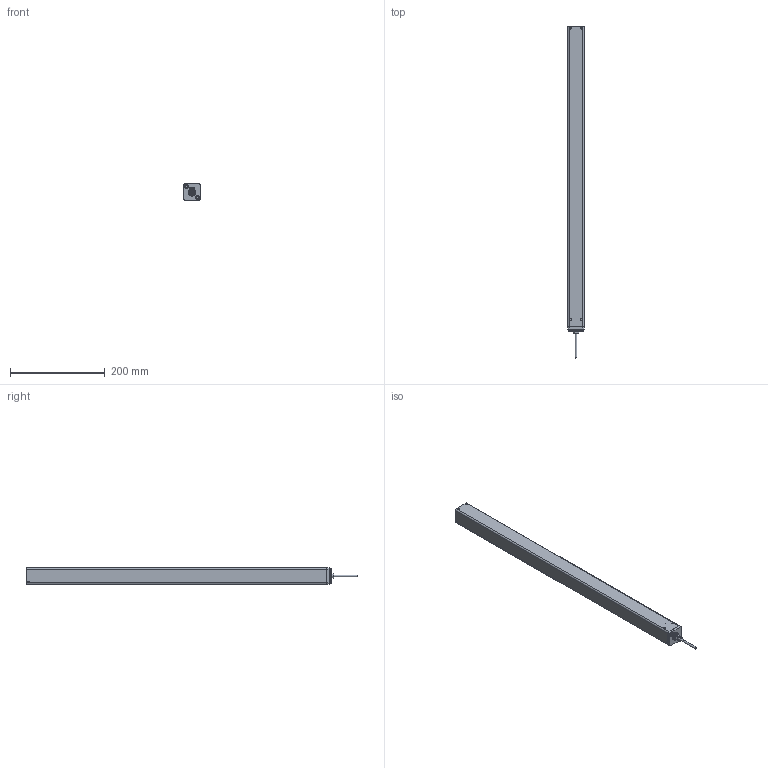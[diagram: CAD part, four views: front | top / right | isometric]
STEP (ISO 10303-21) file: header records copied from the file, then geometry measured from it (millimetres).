
FILE_DESCRIPTION(/* description */ ('Unknown'),/* implementation_level */ '2;1');
FILE_NAME(/* name */ '306.10005 Lineareinheit LH 1450 eingefahren',/* time_stamp */ '2018-02-13T17:24:58+01:00',/* author */ ('Unknown'),/* organization */ ('Unknown'),/* preprocessor_version */ 'ST-DEVELOPER v16.7',/* originating_system */ 'DEX',/* authorisation */ $);
FILE_SCHEMA (('AUTOMOTIVE_DESIGN {1 0 10303 214 3 1 1}'));
Length unit declared in the file: millimetre
Products named in the file (14): 306.10005; 107.00125_oa_0; 115.00001_oa_1; 125.00031; 142.00021; 125.00021; 127.00249; 127.00235_oa_2; Aussenrohr LH 1450; Innenrohr LH 1450; 142.00184; 113.00002_70mm; 142.00031; 142.00138
Assembly tree (15 placements, depth 3):
  306.10005
    107.00125_oa_0
      115.00001_oa_1
      125.00031
      142.00021
      125.00021
    127.00249
    127.00235_oa_2
      Aussenrohr LH 1450
      Innenrohr LH 1450
      142.00184  x2
    113.00002_70mm
    142.00031
    142.00138  x2
Bounding box: 35 x 699 x 35 mm (x, y, z)
Volume: 299494.7 mm3; surface area: 293308.7 mm2
Topology: 13 solids, 13 shells, 237 faces, 572 edges, 373 vertices
Faces by surface type: plane 118, cylinder 93, cone 19, torus 6, sphere 1
Full cylindrical faces by diameter (mm): 1.8 x2, 2.1 x2, 2.2 x1, 3 x4, 3.5 x1, 4 x1, 4.1 x1, 4.134 x6, 4.2 x1, 5 x2, 6 x2, 6.917 x2, 8 x2, 8.376 x1, 8.5 x2, 9 x1, 12.5 x1, 13 x2, 13.2 x1, 13.9 x2, 23.6 x1, 25 x1
Entity records: 7275 total; most frequent: DIRECTION 1110, CARTESIAN_POINT 1103, ORIENTED_EDGE 950, EDGE_CURVE 475, AXIS2_PLACEMENT_3D 421, VERTEX_POINT 342, FACE_BOUND 317, EDGE_LOOP 316
